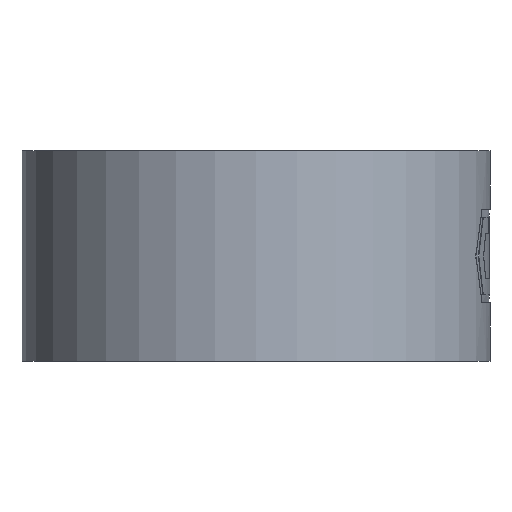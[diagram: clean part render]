
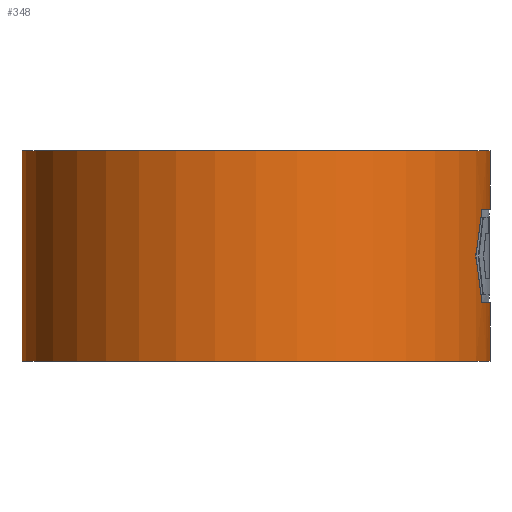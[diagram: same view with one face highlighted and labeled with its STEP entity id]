
A CAD part, front view. The second image highlights one B-rep face of the part: STEP entity #348.
In plain terms, the highlighted cylindrical face has radius 10 mm (diameter 20 mm), a partial arc.
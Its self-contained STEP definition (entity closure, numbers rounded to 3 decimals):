
#4 = ORIENTED_EDGE ( 'NONE', *, *, #277, .F. ) ;
#74 = EDGE_CURVE ( 'NONE', #81, #75, #619, .T. ) ;
#75 = VERTEX_POINT ( 'NONE', #615 ) ;
#81 = VERTEX_POINT ( 'NONE', #609 ) ;
#83 = EDGE_CURVE ( 'NONE', #98, #84, #608, .T. ) ;
#84 = VERTEX_POINT ( 'NONE', #604 ) ;
#91 = VERTEX_POINT ( 'NONE', #591 ) ;
#98 = VERTEX_POINT ( 'NONE', #575 ) ;
#99 = VERTEX_POINT ( 'NONE', #574 ) ;
#103 = EDGE_CURVE ( 'NONE', #99, #91, #567, .T. ) ;
#277 = EDGE_CURVE ( 'NONE', #278, #654, #985, .T. ) ;
#278 = VERTEX_POINT ( 'NONE', #984 ) ;
#279 = ORIENTED_EDGE ( 'NONE', *, *, #280, .F. ) ;
#280 = EDGE_CURVE ( 'NONE', #84, #278, #978, .T. ) ;
#346 = ORIENTED_EDGE ( 'NONE', *, *, #347, .F. ) ;
#347 = EDGE_CURVE ( 'NONE', #99, #98, #1263, .T. ) ;
#348 = ADVANCED_FACE ( 'NONE', ( #1254 ), #1253, .T. ) ;
#349 = EDGE_LOOP ( 'NONE', ( #350, #346, #517, #530, #532, #533, #519, #4, #279 ) ) ;
#350 = ORIENTED_EDGE ( 'NONE', *, *, #83, .F. ) ;
#509 = EDGE_CURVE ( 'NONE', #518, #654, #1400, .T. ) ;
#517 = ORIENTED_EDGE ( 'NONE', *, *, #103, .T. ) ;
#518 = VERTEX_POINT ( 'NONE', #1403 ) ;
#519 = ORIENTED_EDGE ( 'NONE', *, *, #509, .T. ) ;
#530 = ORIENTED_EDGE ( 'NONE', *, *, #531, .T. ) ;
#531 = EDGE_CURVE ( 'NONE', #91, #75, #1402, .T. ) ;
#532 = ORIENTED_EDGE ( 'NONE', *, *, #74, .F. ) ;
#533 = ORIENTED_EDGE ( 'NONE', *, *, #534, .F. ) ;
#534 = EDGE_CURVE ( 'NONE', #518, #81, #1446, .T. ) ;
#564 = DIRECTION ( 'NONE',  ( 0., 0., -1. ) ) ;
#565 = VECTOR ( 'NONE', #564, 1000. ) ;
#566 = CARTESIAN_POINT ( 'NONE',  ( -10., 0., 9. ) ) ;
#567 = LINE ( 'NONE', #566, #565 ) ;
#574 = CARTESIAN_POINT ( 'NONE',  ( -10., 0., 9. ) ) ;
#575 = CARTESIAN_POINT ( 'NONE',  ( 10., 0., 9. ) ) ;
#591 = CARTESIAN_POINT ( 'NONE',  ( -10., 0., 0. ) ) ;
#604 = CARTESIAN_POINT ( 'NONE',  ( 10., 0., 6.5 ) ) ;
#605 = DIRECTION ( 'NONE',  ( 0., 0., -1. ) ) ;
#606 = VECTOR ( 'NONE', #605, 1000. ) ;
#607 = CARTESIAN_POINT ( 'NONE',  ( 10., 0., 9. ) ) ;
#608 = LINE ( 'NONE', #607, #606 ) ;
#609 = CARTESIAN_POINT ( 'NONE',  ( 10., 0., 2.5 ) ) ;
#615 = CARTESIAN_POINT ( 'NONE',  ( 10., 0., 0. ) ) ;
#616 = DIRECTION ( 'NONE',  ( 0., 0., -1. ) ) ;
#617 = VECTOR ( 'NONE', #616, 1000. ) ;
#618 = CARTESIAN_POINT ( 'NONE',  ( 10., 0., 9. ) ) ;
#619 = LINE ( 'NONE', #618, #617 ) ;
#654 = VERTEX_POINT ( 'NONE', #1447 ) ;
#975 = DIRECTION ( 'NONE',  ( 0., 1., 0. ) ) ;
#976 = DIRECTION ( 'NONE',  ( 0., 0., -1. ) ) ;
#977 = AXIS2_PLACEMENT_3D ( 'NONE', #986, #976, #975 ) ;
#978 = CIRCLE ( 'NONE', #977, 10. ) ;
#980 = CARTESIAN_POINT ( 'NONE',  ( 9.401, -3.41, 4.5 ) ) ;
#981 = CARTESIAN_POINT ( 'NONE',  ( 9.499, -3.138, 5.158 ) ) ;
#982 = CARTESIAN_POINT ( 'NONE',  ( 9.586, -2.861, 5.824 ) ) ;
#983 = CARTESIAN_POINT ( 'NONE',  ( 9.661, -2.582, 6.5 ) ) ;
#984 = CARTESIAN_POINT ( 'NONE',  ( 9.661, -2.582, 6.5 ) ) ;
#985 = B_SPLINE_CURVE_WITH_KNOTS ( 'NONE', 3,
 ( #983, #982, #981, #980 ),
 .UNSPECIFIED., .F., .F.,
 ( 4, 4 ),
 ( 0., 1. ),
 .UNSPECIFIED. ) ;
#986 = CARTESIAN_POINT ( 'NONE',  ( 0., 0., 6.5 ) ) ;
#1248 = DIRECTION ( 'NONE',  ( -1., 0., 0. ) ) ;
#1249 = DIRECTION ( 'NONE',  ( 0., 0., -1. ) ) ;
#1250 = CARTESIAN_POINT ( 'NONE',  ( 0., 0., 9. ) ) ;
#1251 = AXIS2_PLACEMENT_3D ( 'NONE', #1250, #1249, #1248 ) ;
#1253 = CYLINDRICAL_SURFACE ( 'NONE', #1251, 10. ) ;
#1254 = FACE_OUTER_BOUND ( 'NONE', #349, .T. ) ;
#1255 = DIRECTION ( 'NONE',  ( 1., 0., 0. ) ) ;
#1256 = DIRECTION ( 'NONE',  ( 0., 0., 1. ) ) ;
#1257 = CARTESIAN_POINT ( 'NONE',  ( 0., 0., 9. ) ) ;
#1258 = AXIS2_PLACEMENT_3D ( 'NONE', #1257, #1256, #1255 ) ;
#1263 = CIRCLE ( 'NONE', #1258, 10. ) ;
#1332 = CARTESIAN_POINT ( 'NONE',  ( 9.495, -3.15, 3.873 ) ) ;
#1333 = CARTESIAN_POINT ( 'NONE',  ( 9.583, -2.874, 3.206 ) ) ;
#1334 = CARTESIAN_POINT ( 'NONE',  ( 9.661, -2.582, 2.5 ) ) ;
#1340 = CARTESIAN_POINT ( 'NONE',  ( 9.401, -3.41, 4.5 ) ) ;
#1400 = B_SPLINE_CURVE_WITH_KNOTS ( 'NONE', 3,
 ( #1334, #1333, #1332, #1340 ),
 .UNSPECIFIED., .F., .F.,
 ( 4, 4 ),
 ( 0., 1. ),
 .UNSPECIFIED. ) ;
#1401 = CARTESIAN_POINT ( 'NONE',  ( 0., 0., 0. ) ) ;
#1402 = CIRCLE ( 'NONE', #1450, 10. ) ;
#1403 = CARTESIAN_POINT ( 'NONE',  ( 9.661, -2.582, 2.5 ) ) ;
#1433 = DIRECTION ( 'NONE',  ( 1., 0., 0. ) ) ;
#1434 = DIRECTION ( 'NONE',  ( 0., 0., 1. ) ) ;
#1444 = CARTESIAN_POINT ( 'NONE',  ( 0., 0., 2.5 ) ) ;
#1445 = AXIS2_PLACEMENT_3D ( 'NONE', #1444, #1434, #1433 ) ;
#1446 = CIRCLE ( 'NONE', #1445, 10. ) ;
#1447 = CARTESIAN_POINT ( 'NONE',  ( 9.401, -3.41, 4.5 ) ) ;
#1448 = DIRECTION ( 'NONE',  ( 1., 0., 0. ) ) ;
#1449 = DIRECTION ( 'NONE',  ( 0., 0., 1. ) ) ;
#1450 = AXIS2_PLACEMENT_3D ( 'NONE', #1401, #1449, #1448 ) ;
